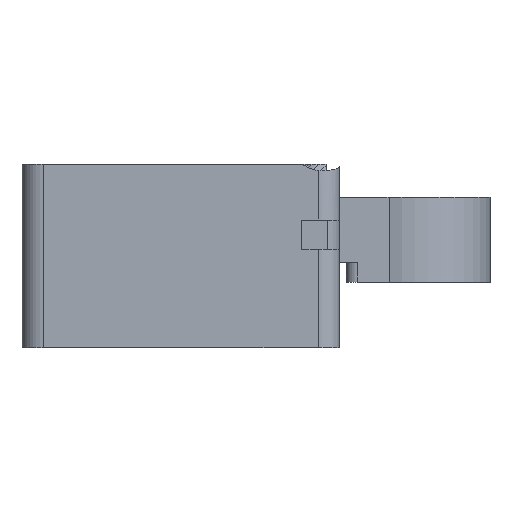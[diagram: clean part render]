
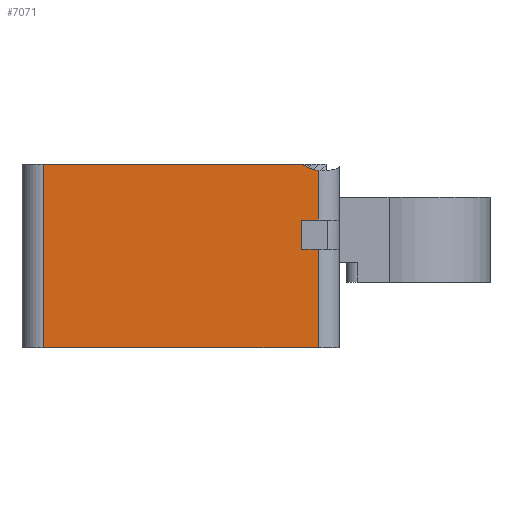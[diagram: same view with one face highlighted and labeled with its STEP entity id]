
A CAD part, front view. The second image highlights one B-rep face of the part: STEP entity #7071.
In plain terms, the highlighted planar face has unit normal (0, -1, 0).
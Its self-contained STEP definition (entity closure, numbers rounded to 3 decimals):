
#44 = PLANE('',#45);
#45 = AXIS2_PLACEMENT_3D('',#46,#47,#48);
#46 = CARTESIAN_POINT('',(21.5,25.38,-4.8));
#47 = DIRECTION('',(0.,0.,1.));
#48 = DIRECTION('',(1.,0.,-0.));
#72 = CYLINDRICAL_SURFACE('',#73,0.65);
#73 = AXIS2_PLACEMENT_3D('',#74,#75,#76);
#74 = CARTESIAN_POINT('',(22.15,26.03,-10.4));
#75 = DIRECTION('',(0.,0.,1.));
#76 = DIRECTION('',(-1.,-0.,0.));
#100 = PLANE('',#101);
#101 = AXIS2_PLACEMENT_3D('',#102,#103,#104);
#102 = CARTESIAN_POINT('',(21.5,25.38,-10.4));
#103 = DIRECTION('',(0.,0.,1.));
#104 = DIRECTION('',(1.,0.,-0.));
#143 = VERTEX_POINT('',#144);
#144 = CARTESIAN_POINT('',(22.15,25.38,-4.8));
#166 = EDGE_CURVE('',#143,#167,#169,.T.);
#167 = VERTEX_POINT('',#168);
#168 = CARTESIAN_POINT('',(30.068,25.38,-4.8));
#169 = SURFACE_CURVE('',#170,(#174,#181),.PCURVE_S1.);
#170 = LINE('',#171,#172);
#171 = CARTESIAN_POINT('',(21.5,25.38,-4.8));
#172 = VECTOR('',#173,1.);
#173 = DIRECTION('',(1.,0.,-0.));
#174 = PCURVE('',#44,#175);
#175 = DEFINITIONAL_REPRESENTATION('',(#176),#180);
#176 = LINE('',#177,#178);
#177 = CARTESIAN_POINT('',(0.,0.));
#178 = VECTOR('',#179,1.);
#179 = DIRECTION('',(1.,0.));
#180 = ( GEOMETRIC_REPRESENTATION_CONTEXT(2) 
PARAMETRIC_REPRESENTATION_CONTEXT() REPRESENTATION_CONTEXT('2D SPACE',''
  ) );
#181 = PCURVE('',#182,#187);
#182 = PLANE('',#183);
#183 = AXIS2_PLACEMENT_3D('',#184,#185,#186);
#184 = CARTESIAN_POINT('',(21.5,25.38,-10.4));
#185 = DIRECTION('',(-0.,1.,0.));
#186 = DIRECTION('',(0.,0.,1.));
#187 = DEFINITIONAL_REPRESENTATION('',(#188),#192);
#188 = LINE('',#189,#190);
#189 = CARTESIAN_POINT('',(5.6,0.));
#190 = VECTOR('',#191,1.);
#191 = DIRECTION('',(0.,1.));
#192 = ( GEOMETRIC_REPRESENTATION_CONTEXT(2) 
PARAMETRIC_REPRESENTATION_CONTEXT() REPRESENTATION_CONTEXT('2D SPACE',''
  ) );
#209 = CYLINDRICAL_SURFACE('',#210,1.1);
#210 = AXIS2_PLACEMENT_3D('',#211,#212,#213);
#211 = CARTESIAN_POINT('',(30.7,15.277,-3.9));
#212 = DIRECTION('',(0.,1.,0.));
#213 = DIRECTION('',(0.,-0.,1.));
#1234 = VERTEX_POINT('',#1235);
#1235 = CARTESIAN_POINT('',(22.15,25.38,-10.4));
#1257 = EDGE_CURVE('',#1234,#143,#1258,.T.);
#1258 = SURFACE_CURVE('',#1259,(#1263,#1270),.PCURVE_S1.);
#1259 = LINE('',#1260,#1261);
#1260 = CARTESIAN_POINT('',(22.15,25.38,-10.4));
#1261 = VECTOR('',#1262,1.);
#1262 = DIRECTION('',(0.,0.,1.));
#1263 = PCURVE('',#72,#1264);
#1264 = DEFINITIONAL_REPRESENTATION('',(#1265),#1269);
#1265 = LINE('',#1266,#1267);
#1266 = CARTESIAN_POINT('',(1.571,0.));
#1267 = VECTOR('',#1268,1.);
#1268 = DIRECTION('',(0.,1.));
#1269 = ( GEOMETRIC_REPRESENTATION_CONTEXT(2) 
PARAMETRIC_REPRESENTATION_CONTEXT() REPRESENTATION_CONTEXT('2D SPACE',''
  ) );
#1270 = PCURVE('',#182,#1271);
#1271 = DEFINITIONAL_REPRESENTATION('',(#1272),#1276);
#1272 = LINE('',#1273,#1274);
#1273 = CARTESIAN_POINT('',(0.,0.65));
#1274 = VECTOR('',#1275,1.);
#1275 = DIRECTION('',(1.,0.));
#1276 = ( GEOMETRIC_REPRESENTATION_CONTEXT(2) 
PARAMETRIC_REPRESENTATION_CONTEXT() REPRESENTATION_CONTEXT('2D SPACE',''
  ) );
#1285 = EDGE_CURVE('',#1234,#1286,#1288,.T.);
#1286 = VERTEX_POINT('',#1287);
#1287 = CARTESIAN_POINT('',(30.55,25.38,-10.4));
#1288 = SURFACE_CURVE('',#1289,(#1293,#1300),.PCURVE_S1.);
#1289 = LINE('',#1290,#1291);
#1290 = CARTESIAN_POINT('',(21.5,25.38,-10.4));
#1291 = VECTOR('',#1292,1.);
#1292 = DIRECTION('',(1.,0.,-0.));
#1293 = PCURVE('',#100,#1294);
#1294 = DEFINITIONAL_REPRESENTATION('',(#1295),#1299);
#1295 = LINE('',#1296,#1297);
#1296 = CARTESIAN_POINT('',(0.,0.));
#1297 = VECTOR('',#1298,1.);
#1298 = DIRECTION('',(1.,0.));
#1299 = ( GEOMETRIC_REPRESENTATION_CONTEXT(2) 
PARAMETRIC_REPRESENTATION_CONTEXT() REPRESENTATION_CONTEXT('2D SPACE',''
  ) );
#1300 = PCURVE('',#182,#1301);
#1301 = DEFINITIONAL_REPRESENTATION('',(#1302),#1306);
#1302 = LINE('',#1303,#1304);
#1303 = CARTESIAN_POINT('',(0.,0.));
#1304 = VECTOR('',#1305,1.);
#1305 = DIRECTION('',(0.,1.));
#1306 = ( GEOMETRIC_REPRESENTATION_CONTEXT(2) 
PARAMETRIC_REPRESENTATION_CONTEXT() REPRESENTATION_CONTEXT('2D SPACE',''
  ) );
#1329 = CYLINDRICAL_SURFACE('',#1330,0.65);
#1330 = AXIS2_PLACEMENT_3D('',#1331,#1332,#1333);
#1331 = CARTESIAN_POINT('',(30.55,26.03,-10.4));
#1332 = DIRECTION('',(0.,0.,1.));
#1333 = DIRECTION('',(1.,0.,-0.));
#1575 = PLANE('',#1576);
#1576 = AXIS2_PLACEMENT_3D('',#1577,#1578,#1579);
#1577 = CARTESIAN_POINT('',(30.05,25.3,-7.4));
#1578 = DIRECTION('',(0.,0.,1.));
#1579 = DIRECTION('',(1.,0.,-0.));
#6774 = PLANE('',#6775);
#6775 = AXIS2_PLACEMENT_3D('',#6776,#6777,#6778);
#6776 = CARTESIAN_POINT('',(30.05,25.3,-6.5));
#6777 = DIRECTION('',(0.,0.,1.));
#6778 = DIRECTION('',(1.,0.,-0.));
#6857 = EDGE_CURVE('',#6858,#167,#6860,.T.);
#6858 = VERTEX_POINT('',#6859);
#6859 = CARTESIAN_POINT('',(30.55,25.38,-4.99));
#6860 = SURFACE_CURVE('',#6861,(#6866,#6873),.PCURVE_S1.);
#6861 = CIRCLE('',#6862,1.1);
#6862 = AXIS2_PLACEMENT_3D('',#6863,#6864,#6865);
#6863 = CARTESIAN_POINT('',(30.7,25.38,-3.9));
#6864 = DIRECTION('',(0.,1.,0.));
#6865 = DIRECTION('',(0.,-0.,1.));
#6866 = PCURVE('',#209,#6867);
#6867 = DEFINITIONAL_REPRESENTATION('',(#6868),#6872);
#6868 = LINE('',#6869,#6870);
#6869 = CARTESIAN_POINT('',(0.,10.103));
#6870 = VECTOR('',#6871,1.);
#6871 = DIRECTION('',(1.,0.));
#6872 = ( GEOMETRIC_REPRESENTATION_CONTEXT(2) 
PARAMETRIC_REPRESENTATION_CONTEXT() REPRESENTATION_CONTEXT('2D SPACE',''
  ) );
#6873 = PCURVE('',#182,#6874);
#6874 = DEFINITIONAL_REPRESENTATION('',(#6875),#6879);
#6875 = CIRCLE('',#6876,1.1);
#6876 = AXIS2_PLACEMENT_2D('',#6877,#6878);
#6877 = CARTESIAN_POINT('',(6.5,9.2));
#6878 = DIRECTION('',(1.,0.));
#6879 = ( GEOMETRIC_REPRESENTATION_CONTEXT(2) 
PARAMETRIC_REPRESENTATION_CONTEXT() REPRESENTATION_CONTEXT('2D SPACE',''
  ) );
#7041 = CYLINDRICAL_SURFACE('',#7042,0.65);
#7042 = AXIS2_PLACEMENT_3D('',#7043,#7044,#7045);
#7043 = CARTESIAN_POINT('',(30.55,26.03,-10.4));
#7044 = DIRECTION('',(0.,0.,1.));
#7045 = DIRECTION('',(1.,0.,-0.));
#7071 = ADVANCED_FACE('',(#7072),#182,.F.);
#7072 = FACE_BOUND('',#7073,.F.);
#7073 = EDGE_LOOP('',(#7074,#7075,#7076,#7077,#7078,#7101,#7124,#7152,
    #7175));
#7074 = ORIENTED_EDGE('',*,*,#1285,.F.);
#7075 = ORIENTED_EDGE('',*,*,#1257,.T.);
#7076 = ORIENTED_EDGE('',*,*,#166,.T.);
#7077 = ORIENTED_EDGE('',*,*,#6857,.F.);
#7078 = ORIENTED_EDGE('',*,*,#7079,.F.);
#7079 = EDGE_CURVE('',#7080,#6858,#7082,.T.);
#7080 = VERTEX_POINT('',#7081);
#7081 = CARTESIAN_POINT('',(30.55,25.38,-6.5));
#7082 = SURFACE_CURVE('',#7083,(#7087,#7094),.PCURVE_S1.);
#7083 = LINE('',#7084,#7085);
#7084 = CARTESIAN_POINT('',(30.55,25.38,-10.4));
#7085 = VECTOR('',#7086,1.);
#7086 = DIRECTION('',(0.,0.,1.));
#7087 = PCURVE('',#182,#7088);
#7088 = DEFINITIONAL_REPRESENTATION('',(#7089),#7093);
#7089 = LINE('',#7090,#7091);
#7090 = CARTESIAN_POINT('',(0.,9.05));
#7091 = VECTOR('',#7092,1.);
#7092 = DIRECTION('',(1.,0.));
#7093 = ( GEOMETRIC_REPRESENTATION_CONTEXT(2) 
PARAMETRIC_REPRESENTATION_CONTEXT() REPRESENTATION_CONTEXT('2D SPACE',''
  ) );
#7094 = PCURVE('',#7041,#7095);
#7095 = DEFINITIONAL_REPRESENTATION('',(#7096),#7100);
#7096 = LINE('',#7097,#7098);
#7097 = CARTESIAN_POINT('',(4.712,0.));
#7098 = VECTOR('',#7099,1.);
#7099 = DIRECTION('',(-0.,1.));
#7100 = ( GEOMETRIC_REPRESENTATION_CONTEXT(2) 
PARAMETRIC_REPRESENTATION_CONTEXT() REPRESENTATION_CONTEXT('2D SPACE',''
  ) );
#7101 = ORIENTED_EDGE('',*,*,#7102,.F.);
#7102 = EDGE_CURVE('',#7103,#7080,#7105,.T.);
#7103 = VERTEX_POINT('',#7104);
#7104 = CARTESIAN_POINT('',(30.05,25.38,-6.5));
#7105 = SURFACE_CURVE('',#7106,(#7110,#7117),.PCURVE_S1.);
#7106 = LINE('',#7107,#7108);
#7107 = CARTESIAN_POINT('',(25.775,25.38,-6.5));
#7108 = VECTOR('',#7109,1.);
#7109 = DIRECTION('',(1.,0.,-0.));
#7110 = PCURVE('',#182,#7111);
#7111 = DEFINITIONAL_REPRESENTATION('',(#7112),#7116);
#7112 = LINE('',#7113,#7114);
#7113 = CARTESIAN_POINT('',(3.9,4.275));
#7114 = VECTOR('',#7115,1.);
#7115 = DIRECTION('',(0.,1.));
#7116 = ( GEOMETRIC_REPRESENTATION_CONTEXT(2) 
PARAMETRIC_REPRESENTATION_CONTEXT() REPRESENTATION_CONTEXT('2D SPACE',''
  ) );
#7117 = PCURVE('',#6774,#7118);
#7118 = DEFINITIONAL_REPRESENTATION('',(#7119),#7123);
#7119 = LINE('',#7120,#7121);
#7120 = CARTESIAN_POINT('',(-4.275,0.08));
#7121 = VECTOR('',#7122,1.);
#7122 = DIRECTION('',(1.,0.));
#7123 = ( GEOMETRIC_REPRESENTATION_CONTEXT(2) 
PARAMETRIC_REPRESENTATION_CONTEXT() REPRESENTATION_CONTEXT('2D SPACE',''
  ) );
#7124 = ORIENTED_EDGE('',*,*,#7125,.T.);
#7125 = EDGE_CURVE('',#7103,#7126,#7128,.T.);
#7126 = VERTEX_POINT('',#7127);
#7127 = CARTESIAN_POINT('',(30.05,25.38,-7.4));
#7128 = SURFACE_CURVE('',#7129,(#7133,#7140),.PCURVE_S1.);
#7129 = LINE('',#7130,#7131);
#7130 = CARTESIAN_POINT('',(30.05,25.38,-8.9));
#7131 = VECTOR('',#7132,1.);
#7132 = DIRECTION('',(-0.,0.,-1.));
#7133 = PCURVE('',#182,#7134);
#7134 = DEFINITIONAL_REPRESENTATION('',(#7135),#7139);
#7135 = LINE('',#7136,#7137);
#7136 = CARTESIAN_POINT('',(1.5,8.55));
#7137 = VECTOR('',#7138,1.);
#7138 = DIRECTION('',(-1.,0.));
#7139 = ( GEOMETRIC_REPRESENTATION_CONTEXT(2) 
PARAMETRIC_REPRESENTATION_CONTEXT() REPRESENTATION_CONTEXT('2D SPACE',''
  ) );
#7140 = PCURVE('',#7141,#7146);
#7141 = PLANE('',#7142);
#7142 = AXIS2_PLACEMENT_3D('',#7143,#7144,#7145);
#7143 = CARTESIAN_POINT('',(30.05,25.3,-7.4));
#7144 = DIRECTION('',(1.,0.,-0.));
#7145 = DIRECTION('',(0.,0.,1.));
#7146 = DEFINITIONAL_REPRESENTATION('',(#7147),#7151);
#7147 = LINE('',#7148,#7149);
#7148 = CARTESIAN_POINT('',(-1.5,-0.08));
#7149 = VECTOR('',#7150,1.);
#7150 = DIRECTION('',(-1.,-0.));
#7151 = ( GEOMETRIC_REPRESENTATION_CONTEXT(2) 
PARAMETRIC_REPRESENTATION_CONTEXT() REPRESENTATION_CONTEXT('2D SPACE',''
  ) );
#7152 = ORIENTED_EDGE('',*,*,#7153,.T.);
#7153 = EDGE_CURVE('',#7126,#7154,#7156,.T.);
#7154 = VERTEX_POINT('',#7155);
#7155 = CARTESIAN_POINT('',(30.55,25.38,-7.4));
#7156 = SURFACE_CURVE('',#7157,(#7161,#7168),.PCURVE_S1.);
#7157 = LINE('',#7158,#7159);
#7158 = CARTESIAN_POINT('',(25.775,25.38,-7.4));
#7159 = VECTOR('',#7160,1.);
#7160 = DIRECTION('',(1.,0.,-0.));
#7161 = PCURVE('',#182,#7162);
#7162 = DEFINITIONAL_REPRESENTATION('',(#7163),#7167);
#7163 = LINE('',#7164,#7165);
#7164 = CARTESIAN_POINT('',(3.,4.275));
#7165 = VECTOR('',#7166,1.);
#7166 = DIRECTION('',(0.,1.));
#7167 = ( GEOMETRIC_REPRESENTATION_CONTEXT(2) 
PARAMETRIC_REPRESENTATION_CONTEXT() REPRESENTATION_CONTEXT('2D SPACE',''
  ) );
#7168 = PCURVE('',#1575,#7169);
#7169 = DEFINITIONAL_REPRESENTATION('',(#7170),#7174);
#7170 = LINE('',#7171,#7172);
#7171 = CARTESIAN_POINT('',(-4.275,0.08));
#7172 = VECTOR('',#7173,1.);
#7173 = DIRECTION('',(1.,0.));
#7174 = ( GEOMETRIC_REPRESENTATION_CONTEXT(2) 
PARAMETRIC_REPRESENTATION_CONTEXT() REPRESENTATION_CONTEXT('2D SPACE',''
  ) );
#7175 = ORIENTED_EDGE('',*,*,#7176,.F.);
#7176 = EDGE_CURVE('',#1286,#7154,#7177,.T.);
#7177 = SURFACE_CURVE('',#7178,(#7182,#7189),.PCURVE_S1.);
#7178 = LINE('',#7179,#7180);
#7179 = CARTESIAN_POINT('',(30.55,25.38,-10.4));
#7180 = VECTOR('',#7181,1.);
#7181 = DIRECTION('',(0.,0.,1.));
#7182 = PCURVE('',#182,#7183);
#7183 = DEFINITIONAL_REPRESENTATION('',(#7184),#7188);
#7184 = LINE('',#7185,#7186);
#7185 = CARTESIAN_POINT('',(0.,9.05));
#7186 = VECTOR('',#7187,1.);
#7187 = DIRECTION('',(1.,0.));
#7188 = ( GEOMETRIC_REPRESENTATION_CONTEXT(2) 
PARAMETRIC_REPRESENTATION_CONTEXT() REPRESENTATION_CONTEXT('2D SPACE',''
  ) );
#7189 = PCURVE('',#1329,#7190);
#7190 = DEFINITIONAL_REPRESENTATION('',(#7191),#7195);
#7191 = LINE('',#7192,#7193);
#7192 = CARTESIAN_POINT('',(4.712,0.));
#7193 = VECTOR('',#7194,1.);
#7194 = DIRECTION('',(-0.,1.));
#7195 = ( GEOMETRIC_REPRESENTATION_CONTEXT(2) 
PARAMETRIC_REPRESENTATION_CONTEXT() REPRESENTATION_CONTEXT('2D SPACE',''
  ) );
